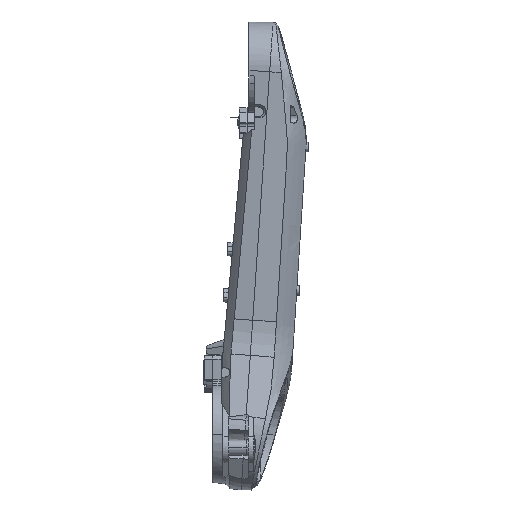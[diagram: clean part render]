
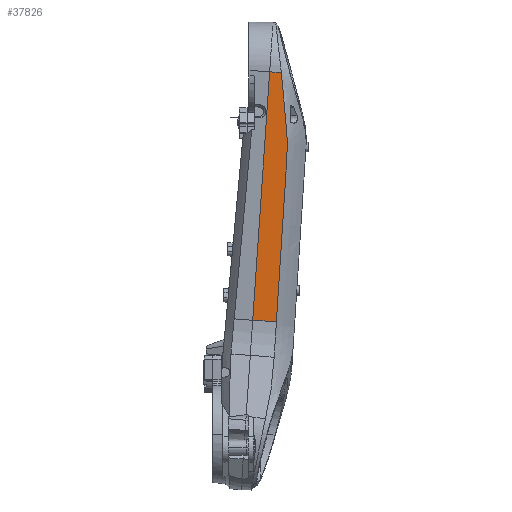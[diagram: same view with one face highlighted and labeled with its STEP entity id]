
A CAD part, left-side view. The second image highlights one B-rep face of the part: STEP entity #37826.
In plain terms, the highlighted planar face has unit normal (-0.996, -0.048, -0.073).
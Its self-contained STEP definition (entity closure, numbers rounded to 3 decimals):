
#968 = VECTOR ( 'NONE', #3846, 1000. ) ;
#1145 = DIRECTION ( 'NONE',  ( 0.073, 0., -0.997 ) ) ;
#1486 = CARTESIAN_POINT ( 'NONE',  ( 176.925, -338.714, 1893.188 ) ) ;
#1575 = CARTESIAN_POINT ( 'NONE',  ( 226.679, -240.237, 1149.208 ) ) ;
#2098 = CARTESIAN_POINT ( 'NONE',  ( 201.205, -344.055, 1564.9 ) ) ;
#2391 = CARTESIAN_POINT ( 'NONE',  ( 189.621, -353.005, 1729.006 ) ) ;
#2511 = ORIENTED_EDGE ( 'NONE', *, *, #40332, .T. ) ;
#2695 = CARTESIAN_POINT ( 'NONE',  ( 221.266, -325.731, 1278.848 ) ) ;
#3611 = DIRECTION ( 'NONE',  ( 0.052, -0.997, -0.064 ) ) ;
#3619 = CARTESIAN_POINT ( 'NONE',  ( 172.348, -333.12, 1952.089 ) ) ;
#3846 = DIRECTION ( 'NONE',  ( 0.07, 0.068, -0.995 ) ) ;
#3908 = LINE ( 'NONE', #50324, #6972 ) ;
#4222 = CARTESIAN_POINT ( 'NONE',  ( 173.503, -334.803, 1937.392 ) ) ;
#4605 = CARTESIAN_POINT ( 'NONE',  ( 170.365, -295.285, 1954.537 ) ) ;
#6148 = CARTESIAN_POINT ( 'NONE',  ( 182.791, -345.435, 1817.411 ) ) ;
#6445 = CARTESIAN_POINT ( 'NONE',  ( 184.427, -347.478, 1796.379 ) ) ;
#6761 = CARTESIAN_POINT ( 'NONE',  ( 190.088, -353.088, 1722.681 ) ) ;
#6972 = VECTOR ( 'NONE', #3611, 1000. ) ;
#7056 = CARTESIAN_POINT ( 'NONE',  ( 228.346, -319.263, 1177.889 ) ) ;
#7352 = CARTESIAN_POINT ( 'NONE',  ( 185.409, -348.708, 1783.761 ) ) ;
#9549 = EDGE_CURVE ( 'NONE', #15107, #25147, #46511, .T. ) ;
#10792 = CARTESIAN_POINT ( 'NONE',  ( 194.125, -350.526, 1665.859 ) ) ;
#11402 = CARTESIAN_POINT ( 'NONE',  ( 190.704, -353.073, 1714.252 ) ) ;
#11723 = CARTESIAN_POINT ( 'NONE',  ( 191.009, -352.996, 1710.04 ) ) ;
#12024 = CARTESIAN_POINT ( 'NONE',  ( 186.392, -349.944, 1771.143 ) ) ;
#12924 = CARTESIAN_POINT ( 'NONE',  ( 172.678, -333.612, 1947.891 ) ) ;
#15107 = VERTEX_POINT ( 'NONE', #4605 ) ;
#15320 = B_SPLINE_CURVE_WITH_KNOTS ( 'NONE', 3,
 ( #25741, #54415, #29763, #30697, #16384, #21692, #15763, #7056, #15444, #30396, #44126, #2695, #21086, #44751, #48782, #2098, #35381, #35076, #58120, #45058, #10792, #53788, #49404, #59067, #40089, #54100, #20771, #44446, #34755, #21390, #11723, #11402, #40406, #26042, #6761, #2391, #39779, #58758, #59371, #16696, #35688, #31001, #12024, #50020, #7352, #49087, #6445, #6148, #26335, #34448, #53490, #25123, #58447, #30069, #1486, #20459, #39472, #16086, #50642, #27265, #27576, #60579, #4222, #59965, #32213, #59670, #12924, #26640, #46885, #3619 ),
 .UNSPECIFIED., .F., .F.,
 ( 4, 2, 2, 2, 2, 2, 2, 2, 2, 2, 2, 2, 2, 2, 2, 2, 2, 2, 2, 2, 2, 2, 2, 2, 2, 2, 2, 2, 2, 2, 2, 2, 2, 2, 4 ),
 ( 0.009, 0.015, 0.022, 0.034, 0.06, 0.11, 0.212, 0.415, 0.465, 0.516, 0.541, 0.548, 0.554, 0.567, 0.573, 0.579, 0.586, 0.592, 0.605, 0.617, 0.63, 0.643, 0.655, 0.668, 0.719, 0.732, 0.744, 0.77, 0.782, 0.795, 0.801, 0.808, 0.814, 0.817, 0.82 ),
 .UNSPECIFIED. ) ;
#15444 = CARTESIAN_POINT ( 'NONE',  ( 227.756, -319.802, 1186.302 ) ) ;
#15763 = CARTESIAN_POINT ( 'NONE',  ( 229.232, -318.455, 1165.269 ) ) ;
#16086 = CARTESIAN_POINT ( 'NONE',  ( 174.975, -336.609, 1918.46 ) ) ;
#16384 = CARTESIAN_POINT ( 'NONE',  ( 229.969, -317.78, 1154.752 ) ) ;
#16696 = CARTESIAN_POINT ( 'NONE',  ( 187.701, -351.586, 1754.318 ) ) ;
#16770 = ORIENTED_EDGE ( 'NONE', *, *, #37814, .F. ) ;
#19501 = PLANE ( 'NONE',  #32896 ) ;
#20459 = CARTESIAN_POINT ( 'NONE',  ( 175.95, -337.668, 1905.825 ) ) ;
#20771 = CARTESIAN_POINT ( 'NONE',  ( 192.06, -352.418, 1695.305 ) ) ;
#21031 = VECTOR ( 'NONE', #29430, 1000. ) ;
#21086 = CARTESIAN_POINT ( 'NONE',  ( 218.906, -327.887, 1312.501 ) ) ;
#21390 = CARTESIAN_POINT ( 'NONE',  ( 191.161, -352.948, 1707.934 ) ) ;
#21692 = CARTESIAN_POINT ( 'NONE',  ( 229.527, -318.185, 1161.062 ) ) ;
#25123 = CARTESIAN_POINT ( 'NONE',  ( 178.874, -340.806, 1867.914 ) ) ;
#25147 = VERTEX_POINT ( 'NONE', #1575 ) ;
#25741 = CARTESIAN_POINT ( 'NONE',  ( 230.707, -317.108, 1144.236 ) ) ;
#26042 = CARTESIAN_POINT ( 'NONE',  ( 190.243, -353.101, 1720.573 ) ) ;
#26335 = CARTESIAN_POINT ( 'NONE',  ( 181.482, -343.822, 1834.239 ) ) ;
#26640 = CARTESIAN_POINT ( 'NONE',  ( 172.513, -333.374, 1949.991 ) ) ;
#27265 = CARTESIAN_POINT ( 'NONE',  ( 174.16, -335.665, 1928.984 ) ) ;
#27576 = CARTESIAN_POINT ( 'NONE',  ( 173.996, -335.461, 1931.087 ) ) ;
#29430 = DIRECTION ( 'NONE',  ( 0.052, -0.997, -0.064 ) ) ;
#29763 = CARTESIAN_POINT ( 'NONE',  ( 230.411, -317.375, 1148.442 ) ) ;
#30069 = CARTESIAN_POINT ( 'NONE',  ( 177.574, -339.398, 1884.762 ) ) ;
#30168 = CARTESIAN_POINT ( 'NONE',  ( 172.348, -333.12, 1952.089 ) ) ;
#30396 = CARTESIAN_POINT ( 'NONE',  ( 225.986, -321.419, 1211.542 ) ) ;
#30697 = CARTESIAN_POINT ( 'NONE',  ( 230.117, -317.645, 1152.649 ) ) ;
#31001 = CARTESIAN_POINT ( 'NONE',  ( 186.719, -350.363, 1766.937 ) ) ;
#32213 = CARTESIAN_POINT ( 'NONE',  ( 173.008, -334.093, 1943.692 ) ) ;
#32896 = AXIS2_PLACEMENT_3D ( 'NONE', #58087, #48749, #1145 ) ;
#33457 = EDGE_CURVE ( 'NONE', #25147, #55015, #3908, .T. ) ;
#34411 = FACE_OUTER_BOUND ( 'NONE', #49786, .T. ) ;
#34448 = CARTESIAN_POINT ( 'NONE',  ( 179.851, -341.913, 1855.284 ) ) ;
#34755 = CARTESIAN_POINT ( 'NONE',  ( 191.463, -352.815, 1703.723 ) ) ;
#35076 = CARTESIAN_POINT ( 'NONE',  ( 197.665, -347.288, 1615.38 ) ) ;
#35381 = CARTESIAN_POINT ( 'NONE',  ( 200.025, -345.133, 1581.726 ) ) ;
#35688 = CARTESIAN_POINT ( 'NONE',  ( 187.374, -351.183, 1758.525 ) ) ;
#37814 = EDGE_CURVE ( 'NONE', #15107, #53905, #43791, .T. ) ;
#37826 = ADVANCED_FACE ( 'NONE', ( #34411 ), #19501, .T. ) ;
#38898 = ORIENTED_EDGE ( 'NONE', *, *, #9549, .T. ) ;
#39472 = CARTESIAN_POINT ( 'NONE',  ( 175.625, -337.317, 1910.037 ) ) ;
#39779 = CARTESIAN_POINT ( 'NONE',  ( 189.306, -352.871, 1733.225 ) ) ;
#40089 = CARTESIAN_POINT ( 'NONE',  ( 192.797, -351.738, 1684.789 ) ) ;
#40332 = EDGE_CURVE ( 'NONE', #55015, #53905, #15320, .T. ) ;
#40406 = CARTESIAN_POINT ( 'NONE',  ( 190.551, -353.096, 1716.359 ) ) ;
#41559 = CARTESIAN_POINT ( 'NONE',  ( 171.574, -294.103, 1937.252 ) ) ;
#42414 = CARTESIAN_POINT ( 'NONE',  ( 230.707, -317.108, 1144.236 ) ) ;
#43189 = CARTESIAN_POINT ( 'NONE',  ( 170.365, -295.285, 1954.537 ) ) ;
#43791 = LINE ( 'NONE', #43189, #21031 ) ;
#44126 = CARTESIAN_POINT ( 'NONE',  ( 224.806, -322.497, 1228.368 ) ) ;
#44446 = CARTESIAN_POINT ( 'NONE',  ( 191.612, -352.728, 1701.618 ) ) ;
#44751 = CARTESIAN_POINT ( 'NONE',  ( 211.825, -334.353, 1413.461 ) ) ;
#45058 = CARTESIAN_POINT ( 'NONE',  ( 194.714, -349.982, 1657.446 ) ) ;
#46511 = LINE ( 'NONE', #41559, #968 ) ;
#46885 = CARTESIAN_POINT ( 'NONE',  ( 172.431, -333.253, 1951.04 ) ) ;
#48064 = ORIENTED_EDGE ( 'NONE', *, *, #33457, .T. ) ;
#48749 = DIRECTION ( 'NONE',  ( -0.996, -0.047, -0.073 ) ) ;
#48782 = CARTESIAN_POINT ( 'NONE',  ( 207.105, -338.665, 1480.767 ) ) ;
#49087 = CARTESIAN_POINT ( 'NONE',  ( 184.755, -347.889, 1792.173 ) ) ;
#49404 = CARTESIAN_POINT ( 'NONE',  ( 193.239, -351.328, 1678.479 ) ) ;
#49786 = EDGE_LOOP ( 'NONE', ( #48064, #2511, #16770, #38898 ) ) ;
#50020 = CARTESIAN_POINT ( 'NONE',  ( 185.737, -349.116, 1779.554 ) ) ;
#50324 = CARTESIAN_POINT ( 'NONE',  ( 226.679, -240.237, 1149.208 ) ) ;
#50642 = CARTESIAN_POINT ( 'NONE',  ( 174.65, -336.25, 1922.672 ) ) ;
#53490 = CARTESIAN_POINT ( 'NONE',  ( 179.525, -341.537, 1859.493 ) ) ;
#53788 = CARTESIAN_POINT ( 'NONE',  ( 193.387, -351.194, 1676.376 ) ) ;
#53905 = VERTEX_POINT ( 'NONE', #30168 ) ;
#54100 = CARTESIAN_POINT ( 'NONE',  ( 192.355, -352.15, 1691.099 ) ) ;
#54415 = CARTESIAN_POINT ( 'NONE',  ( 230.559, -317.238, 1146.339 ) ) ;
#55015 = VERTEX_POINT ( 'NONE', #42414 ) ;
#58087 = CARTESIAN_POINT ( 'NONE',  ( 171.574, -294.103, 1937.252 ) ) ;
#58120 = CARTESIAN_POINT ( 'NONE',  ( 196.485, -348.367, 1632.206 ) ) ;
#58447 = CARTESIAN_POINT ( 'NONE',  ( 178.549, -340.45, 1872.126 ) ) ;
#58758 = CARTESIAN_POINT ( 'NONE',  ( 188.671, -352.494, 1741.666 ) ) ;
#59067 = CARTESIAN_POINT ( 'NONE',  ( 192.944, -351.599, 1682.686 ) ) ;
#59371 = CARTESIAN_POINT ( 'NONE',  ( 188.35, -352.247, 1745.89 ) ) ;
#59670 = CARTESIAN_POINT ( 'NONE',  ( 172.761, -333.732, 1946.841 ) ) ;
#59965 = CARTESIAN_POINT ( 'NONE',  ( 173.174, -334.334, 1941.592 ) ) ;
#60579 = CARTESIAN_POINT ( 'NONE',  ( 173.668, -335.031, 1935.291 ) ) ;
